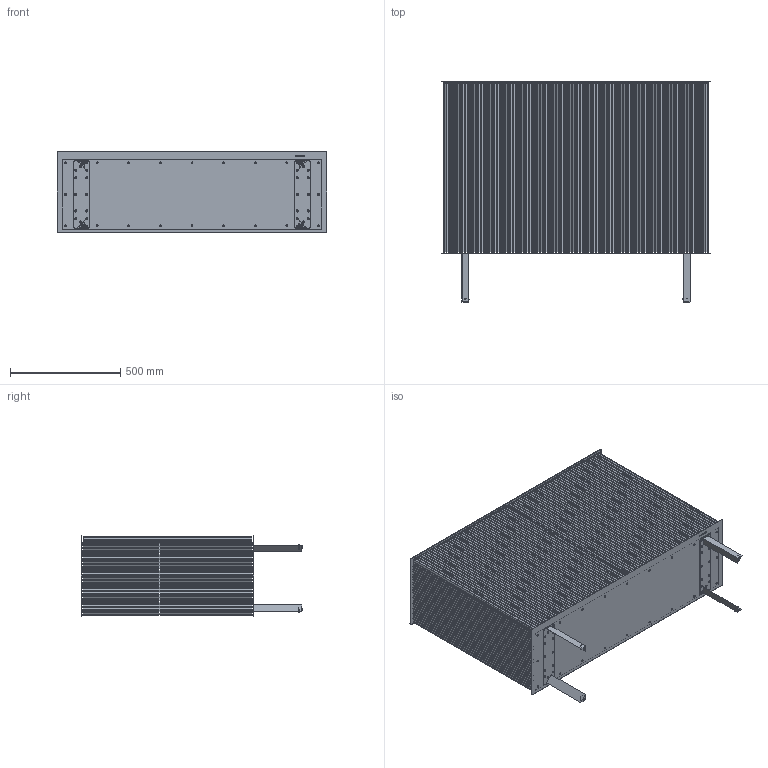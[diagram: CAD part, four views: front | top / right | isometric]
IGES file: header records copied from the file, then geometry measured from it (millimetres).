
Start section: SolidWorks IGES file using analytic representation for surfaces
Global section: file name: \\UTENTI\Dati Utenti\Tecnico\DC\2D - 3D per sito\3D\DeCastelli-3D-Elizabeth Console.igs; native system: SolidWorks 2022; preprocessor: SolidWorks 2022; author: maria; date: 240712.144630; units: millimetre
Bounding box: 1225 x 1003 x 366 mm (x, y, z)
Surface area: 5524448.6 mm2 (no closed solid volume)
Topology: 0 solids, 0 shells, 974 faces, 9042 edges, 9040 vertices
Faces by surface type: bspline 643, revolution 331
